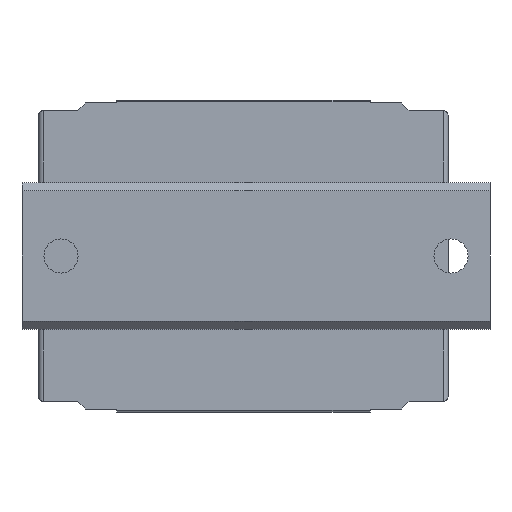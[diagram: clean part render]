
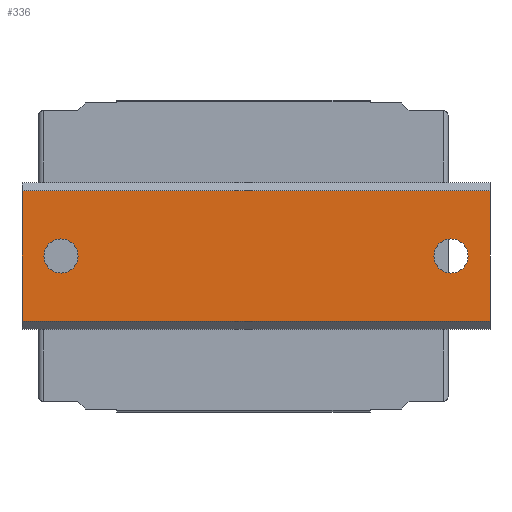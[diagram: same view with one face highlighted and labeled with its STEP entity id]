
A CAD part, front view. The second image highlights one B-rep face of the part: STEP entity #336.
In plain terms, the highlighted planar face has unit normal (0, -1, 0).
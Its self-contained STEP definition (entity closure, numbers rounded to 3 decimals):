
#336 = ADVANCED_FACE( '', ( #687, #688, #689 ), #690, .F. );
#687 = FACE_BOUND( '', #1055, .T. );
#688 = FACE_BOUND( '', #1056, .T. );
#689 = FACE_OUTER_BOUND( '', #1057, .T. );
#690 = PLANE( '', #1058 );
#1055 = EDGE_LOOP( '', ( #1863 ) );
#1056 = EDGE_LOOP( '', ( #1864 ) );
#1057 = EDGE_LOOP( '', ( #1865, #1866, #1867, #1868 ) );
#1058 = AXIS2_PLACEMENT_3D( '', #1869, #1870, #1871 );
#1863 = ORIENTED_EDGE( '', *, *, #2424, .T. );
#1864 = ORIENTED_EDGE( '', *, *, #2355, .T. );
#1865 = ORIENTED_EDGE( '', *, *, #2425, .T. );
#1866 = ORIENTED_EDGE( '', *, *, #2412, .F. );
#1867 = ORIENTED_EDGE( '', *, *, #2191, .F. );
#1868 = ORIENTED_EDGE( '', *, *, #2104, .T. );
#1869 = CARTESIAN_POINT( '', ( 24., 0., 6.7 ) );
#1870 = DIRECTION( '', ( 0., 1., 0. ) );
#1871 = DIRECTION( '', ( 0., 0., 1. ) );
#2104 = EDGE_CURVE( '', #2476, #2474, #2477, .T. );
#2191 = EDGE_CURVE( '', #2476, #2623, #2624, .T. );
#2355 = EDGE_CURVE( '', #2874, #2874, #2875, .T. );
#2412 = EDGE_CURVE( '', #2623, #2942, #2946, .T. );
#2424 = EDGE_CURVE( '', #2962, #2962, #2963, .T. );
#2425 = EDGE_CURVE( '', #2474, #2942, #2964, .T. );
#2474 = VERTEX_POINT( '', #3016 );
#2476 = VERTEX_POINT( '', #3019 );
#2477 = LINE( '', #3020, #3021 );
#2623 = VERTEX_POINT( '', #3217 );
#2624 = LINE( '', #3218, #3219 );
#2874 = VERTEX_POINT( '', #3556 );
#2875 = CIRCLE( '', #3557, 1.75 );
#2942 = VERTEX_POINT( '', #3644 );
#2946 = LINE( '', #3650, #3651 );
#2962 = VERTEX_POINT( '', #3675 );
#2963 = CIRCLE( '', #3676, 1.75 );
#2964 = LINE( '', #3677, #3678 );
#3016 = CARTESIAN_POINT( '', ( -24., 0., 6.7 ) );
#3019 = CARTESIAN_POINT( '', ( 24., 0., 6.7 ) );
#3020 = CARTESIAN_POINT( '', ( 24., 0., 6.7 ) );
#3021 = VECTOR( '', #3741, 1000. );
#3217 = CARTESIAN_POINT( '', ( 24., 0., -6.7 ) );
#3218 = CARTESIAN_POINT( '', ( 24., 0., 6.7 ) );
#3219 = VECTOR( '', #3843, 1000. );
#3556 = CARTESIAN_POINT( '', ( -20., 0., 1.75 ) );
#3557 = AXIS2_PLACEMENT_3D( '', #4039, #4040, #4041 );
#3644 = CARTESIAN_POINT( '', ( -24., 0., -6.7 ) );
#3650 = CARTESIAN_POINT( '', ( 24., 0., -6.7 ) );
#3651 = VECTOR( '', #4103, 1000. );
#3675 = CARTESIAN_POINT( '', ( 20., 0., 1.75 ) );
#3676 = AXIS2_PLACEMENT_3D( '', #4112, #4113, #4114 );
#3677 = CARTESIAN_POINT( '', ( -24., 0., 6.7 ) );
#3678 = VECTOR( '', #4115, 1000. );
#3741 = DIRECTION( '', ( -1., 0., 0. ) );
#3843 = DIRECTION( '', ( 0., 0., -1. ) );
#4039 = CARTESIAN_POINT( '', ( -20., 0., 0. ) );
#4040 = DIRECTION( '', ( 0., 1., 0. ) );
#4041 = DIRECTION( '', ( 0., 0., 1. ) );
#4103 = DIRECTION( '', ( -1., 0., 0. ) );
#4112 = CARTESIAN_POINT( '', ( 20., 0., 0. ) );
#4113 = DIRECTION( '', ( 0., 1., 0. ) );
#4114 = DIRECTION( '', ( 0., 0., 1. ) );
#4115 = DIRECTION( '', ( 0., 0., -1. ) );
